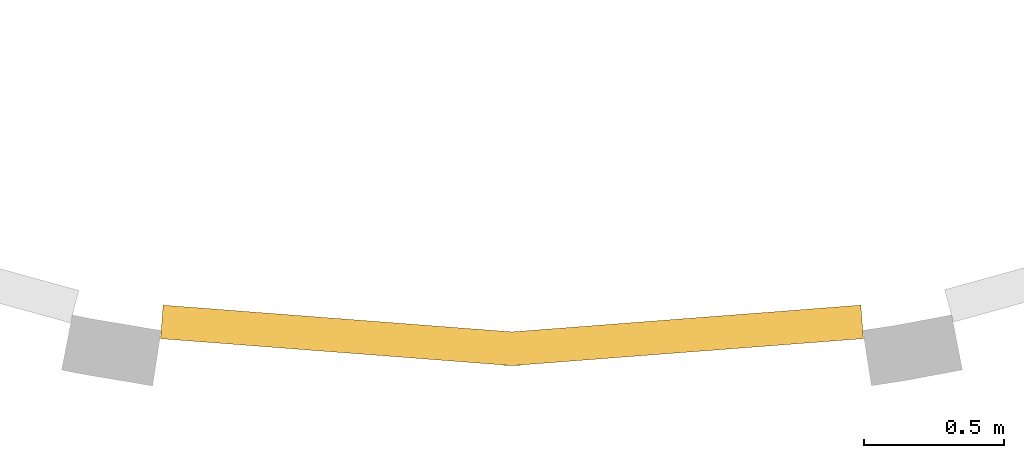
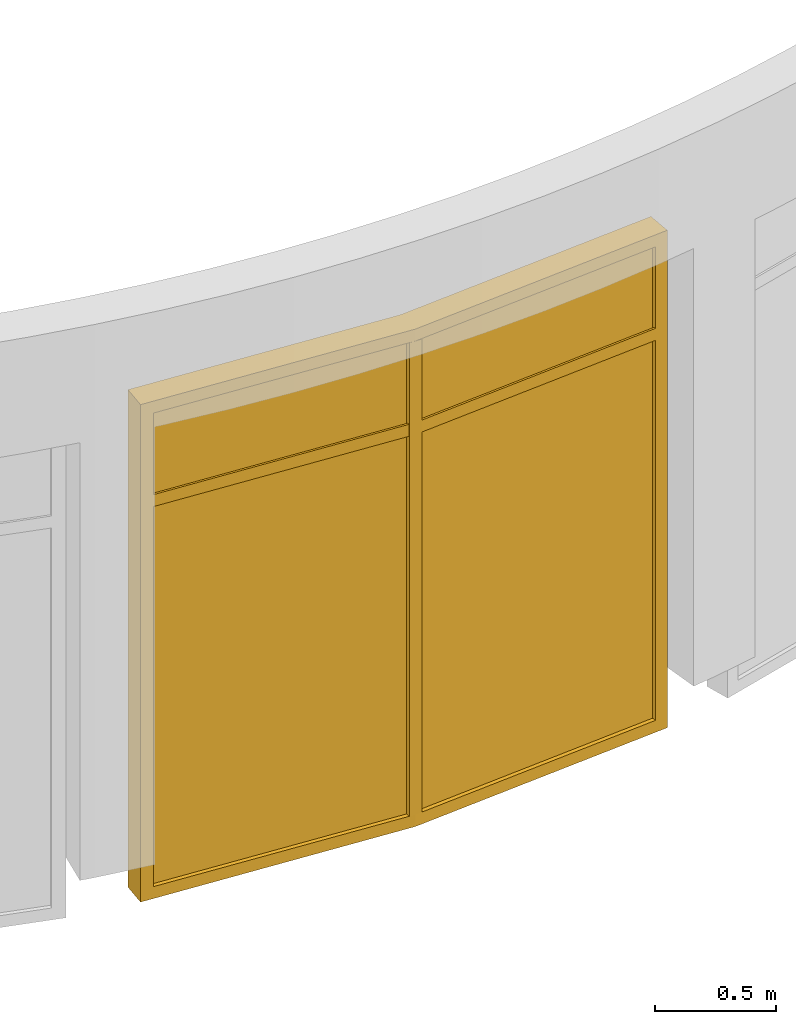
# One storey, part 4 of 7: 1 curtain wall.
"""IFC4 building model written with IfcOpenShell, lengths in millimetres."""

from ifc_helpers import new_model, entity, si_unit, converted_unit, derived_unit, direction, frame, origin_with_axes, place, context, subcontext, project, spatial, polygons, material, constituent, constituent_set, type_object, element, save


model = new_model("IFC4")

# Units and contexts
model_context = context("Model", 3, precision=0.01, world=origin_with_axes(), true_north=direction((0.0, 1.0)))
body_context = subcontext(model_context, "Body", "Model", "MODEL_VIEW")
ifc_project = project(units=[si_unit("LENGTHUNIT", "METRE", prefix="MILLI"), si_unit("AREAUNIT", "SQUARE_METRE"), si_unit("VOLUMEUNIT", "CUBIC_METRE"), converted_unit("PLANEANGLEUNIT", "DEGREE", entity("IfcPlaneAngleMeasure", 0.0174532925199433), si_unit("PLANEANGLEUNIT", "RADIAN"), dimensions=[0, 0, 0, 0, 0, 0, 0]), converted_unit("TIMEUNIT", "Year", entity("IfcTimeMeasure", 31557600.0), si_unit("TIMEUNIT", "SECOND"), dimensions=[0, 0, 1, 0, 0, 0, 0]), si_unit("MASSUNIT", "GRAM", prefix="KILO"), si_unit("THERMODYNAMICTEMPERATUREUNIT", "DEGREE_CELSIUS"), si_unit("LUMINOUSINTENSITYUNIT", "LUMEN"), si_unit("ENERGYUNIT", "JOULE", prefix="MEGA"), derived_unit("THERMALCONDUCTANCEUNIT", [(si_unit("POWERUNIT", "WATT"), 1), (si_unit("LENGTHUNIT", "METRE"), -1), (si_unit("THERMODYNAMICTEMPERATUREUNIT", "KELVIN"), -1)]), derived_unit("SPECIFICHEATCAPACITYUNIT", [(si_unit("ENERGYUNIT", "JOULE"), 1), (si_unit("MASSUNIT", "GRAM", prefix="KILO"), -1), (si_unit("THERMODYNAMICTEMPERATUREUNIT", "KELVIN"), -1)]), derived_unit("MASSDENSITYUNIT", [(si_unit("MASSUNIT", "GRAM", prefix="KILO"), 1), (si_unit("VOLUMEUNIT", "CUBIC_METRE"), -1)])], contexts=[model_context])

# Site, building, storey
site_placement = place(None, origin_with_axes())
site = spatial("IfcSite", under=ifc_project, at=site_placement, Name="Exteriér", CompositionType="ELEMENT")
building_placement = place(site_placement, origin_with_axes())
building = spatial("IfcBuilding", under=site, at=building_placement, Name="Univerzitní lezecké centrum", CompositionType="ELEMENT")
storey_placement = place(building_placement, origin_with_axes())
storey = spatial("IfcBuildingStorey", under=building, at=storey_placement, Name="1.NP", CompositionType="ELEMENT", Elevation=0.0)

# Curtain wall
ifc_material_1 = material(Name="Sklo")
ifc_constituent_1 = constituent(ifc_material_1, Name="Sklo 1")
ifc_constituent_2 = constituent(ifc_material_1, Name="Sklo 2")
ifc_constituent_3 = constituent(ifc_material_1, Name="Sklo 3")
ifc_constituent_4 = constituent(ifc_material_1, Name="Sklo 4")
ifc_material_2 = material(Name="Hliník")
ifc_constituent_5 = constituent(ifc_material_2, Name="Hliník 1")
ifc_constituent_6 = constituent(ifc_material_2, Name="Hliník 2")
ifc_constituent_7 = constituent(ifc_material_2, Name="Hliník 3")
ifc_constituent_8 = constituent(ifc_material_2, Name="Hliník 4")
ifc_constituent_9 = constituent(ifc_material_2, Name="Hliník 5")
ifc_constituent_10 = constituent(ifc_material_2, Name="Hliník 6")
ifc_constituent_11 = constituent(ifc_material_2, Name="Hliník 7")
ifc_constituent_12 = constituent(ifc_material_2, Name="Hliník 8")
ifc_constituent_13 = constituent(ifc_material_2, Name="Hliník 9")
ifc_constituent_14 = constituent(ifc_material_2, Name="Hliník 10")
ifc_constituent_15 = constituent(ifc_material_2, Name="Hliník 11")
ifc_constituent_16 = constituent(ifc_material_2, Name="Hliník 12")
ifc_constituent_set = constituent_set(constituents=[ifc_constituent_1, ifc_constituent_2, ifc_constituent_3, ifc_constituent_4, ifc_constituent_5, ifc_constituent_6, ifc_constituent_7, ifc_constituent_8, ifc_constituent_9, ifc_constituent_10, ifc_constituent_11, ifc_constituent_12, ifc_constituent_13, ifc_constituent_14, ifc_constituent_15, ifc_constituent_16])
curtain_wall_type = type_object("IfcCurtainWallType", Name="Typ lehkého obvodového pláště", PredefinedType="NOTDEFINED")
curtain_wall_placement = place(storey_placement, frame((3074.970331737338, -8452.065627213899, 0.0), z_axis=(0.0, 0.0, 1.0), x_axis=(1.0, 0.0, 0.0)))
element("IfcCurtainWall", 1, at=curtain_wall_placement, inside=storey, type_object=curtain_wall_type, material=ifc_constituent_set, Name="LOP01", PredefinedType="NOTDEFINED", context=body_context, shape_type="Tessellation", body=[
    polygons([(-625.6932335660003, -37.95016954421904, 2469.999973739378), (-624.1640790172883, -57.8916260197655, 2469.999973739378), (595.8688274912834, 35.6631687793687, 2469.999973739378), (594.3396729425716, 55.60462525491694, 2469.999973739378), (-625.6932335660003, -37.95016954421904, 2002.999991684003), (-624.1640790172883, -57.8916260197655, 2002.999991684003), (595.8688274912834, 35.6631687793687, 2002.999991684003), (594.3396729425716, 55.60462525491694, 2002.999991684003)], [[[1, 2, 3, 4]], [[5, 6, 2, 1]], [[2, 6, 7, 3]], [[4, 3, 7, 8]], [[1, 4, 8, 5]], [[8, 7, 6, 5]]], closed=True),
    polygons([(-625.6932375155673, -37.95016984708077, 1997.00000596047), (-624.1640829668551, -57.89162632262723, 1997.00000596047), (595.8688190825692, 35.66316813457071, 1997.00000596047), (594.3396645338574, 55.60462461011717, 1997.00000596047), (-625.6932375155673, -37.95016984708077, 30.0), (-624.1640829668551, -57.89162632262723, 30.0), (595.8688190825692, 35.66316813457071, 30.0), (594.3396645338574, 55.60462461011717, 30.0)], [[[1, 2, 3, 4]], [[5, 6, 2, 1]], [[2, 6, 7, 3]], [[4, 3, 7, 8]], [[1, 4, 8, 5]], [[8, 7, 6, 5]]], closed=True),
    polygons([(-1844.37598340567, 55.56394182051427, 1997.00000596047), (-1845.904472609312, 35.62243433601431, 1997.00000596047), (-625.8684497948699, -57.89165382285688, 1997.00000596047), (-624.3399605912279, -37.95014633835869, 1997.00000596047), (-1844.37598340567, 55.56394182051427, 29.99999999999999), (-1845.904472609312, 35.62243433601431, 29.99999999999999), (-625.8684497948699, -57.89165382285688, 29.99999999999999), (-624.3399605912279, -37.95014633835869, 29.99999999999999)], [[[1, 2, 3, 4]], [[5, 6, 2, 1]], [[2, 6, 7, 3]], [[4, 3, 7, 8]], [[1, 4, 8, 5]], [[8, 7, 6, 5]]], closed=True),
    polygons([(-1844.375979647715, 55.56394153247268, 2469.999973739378), (-1845.904468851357, 35.62243404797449, 2469.999973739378), (-625.868441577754, -57.89165445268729, 2469.999973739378), (-624.339952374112, -37.9501469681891, 2469.999973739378), (-1844.375979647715, 55.56394153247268, 2002.999991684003), (-1845.904468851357, 35.62243404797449, 2002.999991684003), (-625.868441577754, -57.89165445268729, 2002.999991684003), (-624.339952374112, -37.9501469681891, 2002.999991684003)], [[[1, 2, 3, 4]], [[5, 6, 2, 1]], [[2, 6, 7, 3]], [[4, 3, 7, 8]], [[1, 4, 8, 5]], [[8, 7, 6, 5]]], closed=True),
    polygons([(-625.0165938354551, -37.89828332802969, 30.00000000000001), (-625.0165938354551, -37.89828332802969, 60.00000000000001), (-625.0179323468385, 42.33647561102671, 60.00000000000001), (-625.0179323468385, 42.33647561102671, 0.0), (-625.0159245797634, -78.0156627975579, 0.0), (-625.0159245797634, -78.0156627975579, 60.00000000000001), (-625.0162592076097, -57.95697306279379, 60.00000000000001), (-625.0162592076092, -57.95697306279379, 30.00000000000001), (594.339664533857, 55.60462461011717, 30.0), (564.4274798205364, 53.31089278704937, 60.0), (558.3108616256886, 133.0767186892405, 60.0), (618.1352310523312, 137.6641823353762, 0.0), (627.3101583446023, 18.01544348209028, 0.0), (567.4857889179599, 13.42797983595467, 60.0), (565.9566343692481, 33.36943631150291, 60.0), (595.8688190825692, 35.66316813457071, 30.0)], [[[1, 2, 3, 4, 5, 6, 7, 8]], [[1, 9, 10, 2]], [[10, 11, 3, 2]], [[3, 11, 12, 4]], [[4, 12, 13, 5]], [[5, 13, 14, 6]], [[7, 6, 14, 15]], [[15, 16, 8, 7]], [[8, 16, 9, 1]], [[9, 16, 15, 14, 13, 12, 11, 10]]], closed=True),
    polygons([(594.3396645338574, 55.60462461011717, 2000.0), (595.8688190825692, 35.66316813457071, 2000.0), (565.9566343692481, 33.36943631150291, 2000.0), (567.4857889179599, 13.42797983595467, 2000.0), (627.3101583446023, 18.01544348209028, 2000.0), (618.1352310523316, 137.6641823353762, 2000.0), (558.3108616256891, 133.0767186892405, 2000.0), (564.4274798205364, 53.31089278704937, 2000.0), (594.3396645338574, 55.60462461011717, 30.00000000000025), (595.8688190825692, 35.66316813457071, 30.00000000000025), (565.9566343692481, 33.36943631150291, 59.99999999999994), (567.4857889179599, 13.42797983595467, 59.99999999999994), (627.3101583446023, 18.01544348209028, 0.0), (618.1352310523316, 137.6641823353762, 0.0), (558.3108616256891, 133.0767186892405, 60.00000000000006), (564.4274798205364, 53.31089278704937, 59.99999999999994)], [[[1, 2, 3, 4, 5, 6, 7, 8]], [[2, 1, 9, 10]], [[11, 3, 2, 10]], [[3, 11, 12, 4]], [[5, 4, 12, 13]], [[6, 5, 13, 14]], [[7, 6, 14, 15]], [[16, 8, 7, 15]], [[1, 8, 16, 9]], [[9, 16, 15, 14, 13, 12, 11, 10]]], closed=True),
    polygons([(-625.0165938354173, -37.89828332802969, 60.00000000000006), (-595.0166322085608, -35.59782057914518, 60.00000000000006), (-595.0166322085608, -35.59782057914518, 2000.0), (-625.0165938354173, -37.89828332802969, 2000.0), (-655.0166322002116, -35.59882152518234, 60.00000000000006), (-655.016926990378, -17.92812867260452, 60.00000000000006), (-595.0169269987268, -17.92712772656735, 60.00000000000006), (-595.0169269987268, -17.92712772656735, 2000.0), (-655.016926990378, -17.92812867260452, 2000.0), (-655.0166322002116, -35.59882152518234, 2000.0)], [[[1, 2, 3, 4]], [[5, 6, 7, 2, 1]], [[3, 2, 7, 8]], [[4, 3, 8, 9, 10]], [[10, 5, 1, 4]], [[10, 9, 6, 5]], [[9, 8, 7, 6]]], closed=True),
    polygons([(-655.0162975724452, -55.65751125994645, 2000.0), (-655.0159260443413, -77.92812866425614, 2000.0), (-595.0159260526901, -77.92712771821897, 2000.0), (-595.016297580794, -55.65651031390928, 2000.0), (-624.1640723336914, -57.8916255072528, 2000.0), (-625.0164457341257, -46.77596222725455, 2000.0), (-625.8684482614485, -57.89165394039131, 2000.0), (-655.0162975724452, -55.65751125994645, 59.99999999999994), (-655.0159260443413, -77.92812866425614, 59.99999999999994), (-595.0159260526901, -77.92712771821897, 59.99999999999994), (-595.016297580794, -55.65651031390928, 59.99999999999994), (-624.1640723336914, -57.8916255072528, 60.00000000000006), (-625.0164457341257, -46.77596222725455, 60.00000000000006), (-625.8684482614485, -57.89165394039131, 60.00000000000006)], [[[1, 2, 3, 4, 5, 6, 7]], [[8, 9, 2, 1]], [[3, 2, 9, 10]], [[11, 4, 3, 10]], [[4, 11, 12, 5]], [[6, 5, 12, 13]], [[13, 14, 7, 6]], [[7, 14, 8, 1]], [[14, 13, 12, 11, 10, 9, 8]]], closed=True),
    polygons([(594.3396645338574, 55.60462461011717, 2469.999914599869), (595.8688190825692, 35.66316813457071, 2469.999914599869), (565.9566343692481, 33.36943631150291, 2439.999914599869), (567.4857889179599, 13.42797983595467, 2439.999914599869), (627.3101583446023, 18.01544348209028, 2499.999914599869), (618.1352310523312, 137.6641823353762, 2499.999914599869), (558.3108616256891, 133.0767186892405, 2439.999914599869), (564.4274798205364, 53.31089278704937, 2439.999914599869), (594.3396645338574, 55.60462461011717, 2000.0), (595.8688190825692, 35.66316813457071, 2000.0), (565.9566343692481, 33.36943631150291, 2000.0), (567.4857889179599, 13.42797983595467, 2000.0), (627.3101583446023, 18.01544348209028, 2000.0), (618.1352310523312, 137.6641823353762, 2000.0), (558.3108616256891, 133.0767186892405, 2000.0), (564.4274798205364, 53.31089278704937, 2000.0)], [[[1, 2, 3, 4, 5, 6, 7, 8]], [[2, 1, 9, 10]], [[11, 3, 2, 10]], [[3, 11, 12, 4]], [[13, 5, 4, 12]], [[14, 6, 5, 13]], [[15, 7, 6, 14]], [[16, 8, 7, 15]], [[1, 8, 16, 9]], [[9, 16, 15, 14, 13, 12, 11, 10]]], closed=True),
    polygons([(-625.0165938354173, -37.89828332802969, 2000.0), (-595.0166322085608, -35.59782057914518, 2000.0), (-595.0166322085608, -35.59782057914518, 2439.999966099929), (-625.0165938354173, -37.89828332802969, 2439.999966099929), (-655.0166322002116, -35.59882152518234, 2000.0), (-655.016926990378, -17.92812867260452, 2000.0), (-595.0169269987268, -17.92712772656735, 2000.0), (-595.0169269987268, -17.92712772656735, 2439.999966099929), (-655.016926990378, -17.92812867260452, 2439.999966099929), (-655.0166322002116, -35.59882152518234, 2439.999966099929)], [[[1, 2, 3, 4]], [[5, 6, 7, 2, 1]], [[3, 2, 7, 8]], [[4, 3, 8, 9, 10]], [[10, 5, 1, 4]], [[10, 9, 6, 5]], [[8, 7, 6, 9]]], closed=True),
    polygons([(-655.0162975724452, -55.65751125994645, 2439.999966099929), (-655.0159260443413, -77.92812866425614, 2439.999966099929), (-595.0159260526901, -77.92712771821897, 2439.999966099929), (-595.016297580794, -55.65651031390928, 2439.999966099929), (-624.1640723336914, -57.8916255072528, 2439.999966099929), (-625.0164457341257, -46.77596222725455, 2439.999966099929), (-625.8684482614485, -57.89165394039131, 2439.999966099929), (-655.0162975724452, -55.65751125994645, 2000.0), (-655.0159260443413, -77.92812866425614, 2000.0), (-595.0159260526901, -77.92712771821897, 2000.0), (-595.016297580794, -55.65651031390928, 2000.0), (-624.1640723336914, -57.8916255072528, 2000.0), (-625.0164457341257, -46.77596222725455, 2000.0), (-625.8684482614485, -57.89165394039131, 2000.0)], [[[1, 2, 3, 4, 5, 6, 7]], [[8, 9, 2, 1]], [[2, 9, 10, 3]], [[11, 4, 3, 10]], [[4, 11, 12, 5]], [[6, 5, 12, 13]], [[13, 14, 7, 6]], [[7, 14, 8, 1]], [[14, 13, 12, 11, 10, 9, 8]]], closed=True),
    polygons([(-594.9287650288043, -25.56172503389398, 1997.0), (-594.9280957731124, -65.67910450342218, 1997.0), (-594.9280957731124, -65.67910450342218, 1970.0), (-594.9279284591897, -75.70844937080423, 1970.0), (-594.9279284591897, -75.70844937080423, 2030.0), (-594.9280957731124, -65.67910450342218, 2030.0), (-594.9280957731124, -65.67910450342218, 2003.0), (-594.9287650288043, -25.56172503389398, 2003.0), (-594.9287650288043, -25.56172503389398, 2030.0), (-594.9289323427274, -15.53238016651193, 2030.0), (-594.9289323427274, -15.53238016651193, 1970.0), (-594.9287650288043, -25.56172503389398, 1970.0), (563.6629025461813, 63.28162102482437, 1997.0), (566.7212116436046, 23.39870807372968, 1997.0), (566.7212116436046, 23.39870807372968, 1970.0), (567.4857889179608, 13.42797983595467, 1970.0), (567.4857889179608, 13.42797983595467, 2030.0), (566.7212116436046, 23.39870807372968, 2030.0), (566.7212116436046, 23.39870807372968, 2003.0), (563.6629025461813, 63.28162102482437, 2003.0), (563.6629025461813, 63.28162102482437, 2030.0), (562.8983252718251, 73.2523492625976, 2030.0), (562.8983252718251, 73.2523492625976, 1970.0), (563.6629025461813, 63.28162102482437, 1970.0)], [[[1, 2, 3, 4, 5, 6, 7, 8, 9, 10, 11, 12]], [[1, 13, 14, 2]], [[2, 14, 15, 3]], [[15, 16, 4, 3]], [[5, 4, 16, 17]], [[18, 6, 5, 17]], [[6, 18, 19, 7]], [[8, 7, 19, 20]], [[9, 8, 20, 21]], [[9, 21, 22, 10]], [[11, 10, 22, 23]], [[12, 11, 23, 24]], [[12, 24, 13, 1]], [[14, 13, 24, 23, 22, 21, 20, 19, 18, 17, 16, 15]]], closed=True),
    polygons([(-625.0165938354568, -37.89828332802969, 2469.999966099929), (-625.0162592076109, -57.95697306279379, 2469.999966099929), (-625.0162592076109, -57.95697306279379, 2439.999966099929), (-625.015924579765, -78.0156627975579, 2439.999966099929), (-625.015924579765, -78.0156627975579, 2499.999966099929), (-625.0179323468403, 42.33647561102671, 2499.999966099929), (-625.0179323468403, 42.33647561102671, 2439.999966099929), (-625.0165938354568, -37.89828332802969, 2439.999966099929), (594.3396645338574, 55.60462461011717, 2469.999966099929), (595.8688190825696, 35.66316813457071, 2469.999966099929), (565.9566343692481, 33.36943631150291, 2439.999966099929), (567.4857889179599, 13.42797983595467, 2439.999966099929), (627.3101583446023, 18.01544348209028, 2499.999966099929), (618.1352310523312, 137.6641823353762, 2499.999966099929), (558.3108616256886, 133.0767186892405, 2439.999966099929), (564.427479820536, 53.31089278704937, 2439.999966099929)], [[[1, 2, 3, 4, 5, 6, 7, 8]], [[2, 1, 9, 10]], [[11, 3, 2, 10]], [[3, 11, 12, 4]], [[5, 4, 12, 13]], [[6, 5, 13, 14]], [[7, 6, 14, 15]], [[16, 8, 7, 15]], [[1, 8, 16, 9]], [[9, 16, 15, 14, 13, 12, 11, 10]]], closed=True),
    polygons([(-1844.375971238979, 55.56394088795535, 2000.0), (-1814.463710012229, 53.27120708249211, 2000.0), (-1808.349753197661, 133.0372370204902, 2000.0), (-1868.174275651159, 137.6227046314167, 2000.0), (-1877.345210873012, 17.97365972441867, 2000.0), (-1817.520688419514, 13.38819211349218, 2000.0), (-1815.992199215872, 33.32969959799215, 2000.0), (-1845.904460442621, 35.62243340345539, 2000.0), (-1844.375971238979, 55.56394088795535, 30.00000000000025), (-1814.463710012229, 53.27120708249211, 59.99999999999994), (-1808.349753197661, 133.0372370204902, 60.00000000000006), (-1868.174275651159, 137.6227046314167, 0.0), (-1877.345210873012, 17.97365972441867, 0.0), (-1817.520688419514, 13.38819211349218, 59.99999999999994), (-1815.992199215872, 33.32969959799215, 59.99999999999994), (-1845.904460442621, 35.62243340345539, 30.00000000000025)], [[[1, 2, 3, 4, 5, 6, 7, 8]], [[1, 9, 10, 2]], [[10, 11, 3, 2]], [[3, 11, 12, 4]], [[4, 12, 13, 5]], [[5, 13, 14, 6]], [[7, 6, 14, 15]], [[15, 16, 8, 7]], [[8, 16, 9, 1]], [[9, 16, 15, 14, 13, 12, 11, 10]]], closed=True),
    polygons([(-1844.375971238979, 55.56394088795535, 2469.999966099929), (-1814.463710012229, 53.27120708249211, 2439.999966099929), (-1808.349753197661, 133.0372370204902, 2439.999966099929), (-1868.174275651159, 137.6227046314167, 2499.999966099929), (-1877.345210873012, 17.97365972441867, 2499.999966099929), (-1817.520688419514, 13.38819211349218, 2439.999966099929), (-1815.992199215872, 33.32969959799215, 2439.999966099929), (-1845.904460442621, 35.62243340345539, 2469.999966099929), (-1844.375971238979, 55.56394088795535, 2000.0), (-1814.463710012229, 53.27120708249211, 2000.0), (-1808.349753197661, 133.0372370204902, 2000.0), (-1868.174275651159, 137.6227046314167, 2000.0), (-1877.345210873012, 17.97365972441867, 2000.0), (-1817.520688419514, 13.38819211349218, 2000.0), (-1815.992199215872, 33.32969959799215, 2000.0), (-1845.904460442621, 35.62243340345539, 2000.0)], [[[1, 2, 3, 4, 5, 6, 7, 8]], [[1, 9, 10, 2]], [[10, 11, 3, 2]], [[11, 12, 4, 3]], [[12, 13, 5, 4]], [[13, 14, 6, 5]], [[7, 6, 14, 15]], [[15, 16, 8, 7]], [[8, 16, 9, 1]], [[9, 16, 15, 14, 13, 12, 11, 10]]], closed=True),
    polygons([(-1844.375971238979, 55.56394088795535, 29.99999999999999), (-1814.46371001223, 53.27120708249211, 59.99999999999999), (-1808.349753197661, 133.0372370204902, 59.99999999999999), (-1868.174275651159, 137.6227046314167, 0.0), (-1877.345210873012, 17.97365972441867, 0.0), (-1817.520688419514, 13.38819211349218, 59.99999999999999), (-1815.992199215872, 33.32969959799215, 59.99999999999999), (-1845.904460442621, 35.62243340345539, 29.99999999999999), (-625.0165938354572, -37.89828332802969, 30.0), (-625.0165938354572, -37.89828332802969, 60.0), (-625.0179323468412, 42.33647561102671, 60.0), (-625.0179323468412, 42.33647561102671, 0.0), (-625.015924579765, -78.0156627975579, 0.0), (-625.015924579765, -78.0156627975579, 60.0), (-625.0162592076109, -57.95697306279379, 60.0), (-625.0162592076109, -57.95697306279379, 30.0)], [[[1, 2, 3, 4, 5, 6, 7, 8]], [[1, 9, 10, 2]], [[10, 11, 3, 2]], [[3, 11, 12, 4]], [[4, 12, 13, 5]], [[5, 13, 14, 6]], [[7, 6, 14, 15]], [[15, 16, 8, 7]], [[8, 16, 9, 1]], [[9, 16, 15, 14, 13, 12, 11, 10]]], closed=True),
    polygons([(-1813.699465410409, 63.24196082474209, 1997.0), (-1816.756443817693, 23.35894585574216, 1997.0), (-1816.756443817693, 23.35894585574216, 1970.0), (-1817.520688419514, 13.38819211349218, 1970.0), (-1817.520688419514, 13.38819211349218, 2030.0), (-1816.756443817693, 23.35894585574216, 2030.0), (-1816.756443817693, 23.35894585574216, 2003.0), (-1813.699465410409, 63.24196082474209, 2003.0), (-1813.699465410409, 63.24196082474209, 2030.0), (-1812.935220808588, 73.21271456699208, 2030.0), (-1812.935220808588, 73.21271456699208, 1970.0), (-1813.699465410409, 63.24196082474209, 1970.0), (-655.1048342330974, -25.56272891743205, 1997.0), (-655.1041649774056, -65.68010838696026, 1997.0), (-655.1041649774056, -65.68010838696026, 1970.0), (-655.1039976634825, -75.7094532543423, 1970.0), (-655.1039976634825, -75.7094532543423, 2030.0), (-655.1041649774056, -65.68010838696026, 2030.0), (-655.1041649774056, -65.68010838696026, 2003.0), (-655.1048342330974, -25.56272891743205, 2003.0), (-655.1048342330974, -25.56272891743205, 2030.0), (-655.1050015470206, -15.53338405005, 2030.0), (-655.1050015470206, -15.53338405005, 1970.0), (-655.1048342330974, -25.56272891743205, 1970.0)], [[[1, 2, 3, 4, 5, 6, 7, 8, 9, 10, 11, 12]], [[1, 13, 14, 2]], [[2, 14, 15, 3]], [[15, 16, 4, 3]], [[5, 4, 16, 17]], [[18, 6, 5, 17]], [[6, 18, 19, 7]], [[8, 7, 19, 20]], [[9, 8, 20, 21]], [[9, 21, 22, 10]], [[11, 10, 22, 23]], [[12, 11, 23, 24]], [[12, 24, 13, 1]], [[14, 13, 24, 23, 22, 21, 20, 19, 18, 17, 16, 15]]], closed=True),
    polygons([(-1844.37597123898, 55.56394088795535, 2469.999966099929), (-1845.904460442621, 35.62243340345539, 2469.999966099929), (-1815.992199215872, 33.32969959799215, 2439.999966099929), (-1817.520688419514, 13.38819211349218, 2439.999966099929), (-1877.345210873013, 17.97365972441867, 2499.999966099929), (-1868.17427565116, 137.6227046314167, 2499.999966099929), (-1808.349753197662, 133.0372370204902, 2439.999966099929), (-1814.46371001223, 53.27120708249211, 2439.999966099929), (-625.0165938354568, -37.89828332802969, 2469.999966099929), (-625.0162592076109, -57.95697306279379, 2469.999966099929), (-625.0162592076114, -57.95697306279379, 2439.999966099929), (-625.015924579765, -78.0156627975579, 2439.999966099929), (-625.015924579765, -78.0156627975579, 2499.999966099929), (-625.0179323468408, 42.33647561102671, 2499.999966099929), (-625.0179323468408, 42.33647561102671, 2439.999966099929), (-625.0165938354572, -37.89828332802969, 2439.999966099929)], [[[1, 2, 3, 4, 5, 6, 7, 8]], [[2, 1, 9, 10]], [[11, 3, 2, 10]], [[3, 11, 12, 4]], [[5, 4, 12, 13]], [[6, 5, 13, 14]], [[7, 6, 14, 15]], [[16, 8, 7, 15]], [[1, 8, 16, 9]], [[9, 16, 15, 14, 13, 12, 11, 10]]], closed=True),
])

save(model, "model.ifc")
